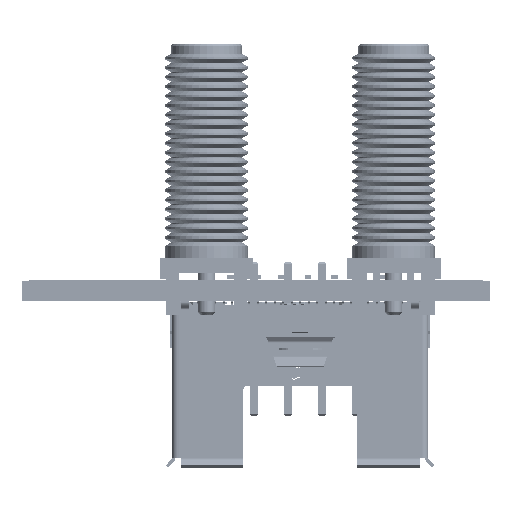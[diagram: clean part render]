
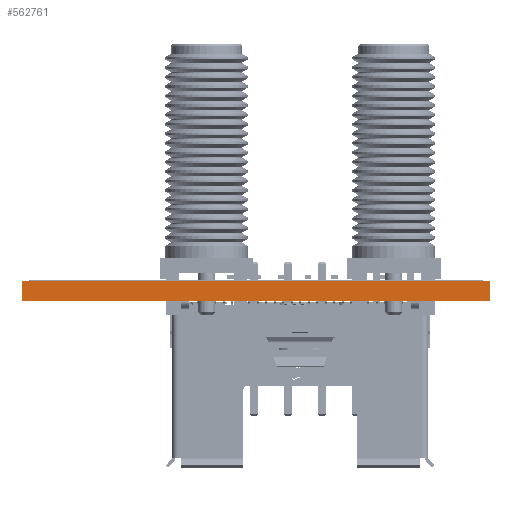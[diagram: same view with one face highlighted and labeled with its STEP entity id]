
A CAD part, left-side view. The second image highlights one B-rep face of the part: STEP entity #562761.
In plain terms, the highlighted planar face has unit normal (-1, 0, 0).
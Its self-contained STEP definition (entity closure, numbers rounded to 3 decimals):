
#562705 = VERTEX_POINT('',#562706);
#562706 = CARTESIAN_POINT('',(50.,-150.,1.51));
#562712 = EDGE_CURVE('',#562713,#562705,#562715,.T.);
#562713 = VERTEX_POINT('',#562714);
#562714 = CARTESIAN_POINT('',(50.,-150.,0.));
#562715 = LINE('',#562716,#562717);
#562716 = CARTESIAN_POINT('',(50.,-150.,0.));
#562717 = VECTOR('',#562718,1.);
#562718 = DIRECTION('',(0.,0.,1.));
#562761 = ADVANCED_FACE('',(#562762),#562787,.T.);
#562762 = FACE_BOUND('',#562763,.T.);
#562763 = EDGE_LOOP('',(#562764,#562765,#562773,#562781));
#562764 = ORIENTED_EDGE('',*,*,#562712,.T.);
#562765 = ORIENTED_EDGE('',*,*,#562766,.T.);
#562766 = EDGE_CURVE('',#562705,#562767,#562769,.T.);
#562767 = VERTEX_POINT('',#562768);
#562768 = CARTESIAN_POINT('',(50.,-115.,1.51));
#562769 = LINE('',#562770,#562771);
#562770 = CARTESIAN_POINT('',(50.,-150.,1.51));
#562771 = VECTOR('',#562772,1.);
#562772 = DIRECTION('',(0.,1.,0.));
#562773 = ORIENTED_EDGE('',*,*,#562774,.F.);
#562774 = EDGE_CURVE('',#562775,#562767,#562777,.T.);
#562775 = VERTEX_POINT('',#562776);
#562776 = CARTESIAN_POINT('',(50.,-115.,0.));
#562777 = LINE('',#562778,#562779);
#562778 = CARTESIAN_POINT('',(50.,-115.,0.));
#562779 = VECTOR('',#562780,1.);
#562780 = DIRECTION('',(0.,0.,1.));
#562781 = ORIENTED_EDGE('',*,*,#562782,.F.);
#562782 = EDGE_CURVE('',#562713,#562775,#562783,.T.);
#562783 = LINE('',#562784,#562785);
#562784 = CARTESIAN_POINT('',(50.,-150.,0.));
#562785 = VECTOR('',#562786,1.);
#562786 = DIRECTION('',(0.,1.,0.));
#562787 = PLANE('',#562788);
#562788 = AXIS2_PLACEMENT_3D('',#562789,#562790,#562791);
#562789 = CARTESIAN_POINT('',(50.,-150.,0.));
#562790 = DIRECTION('',(-1.,0.,0.));
#562791 = DIRECTION('',(0.,1.,0.));
